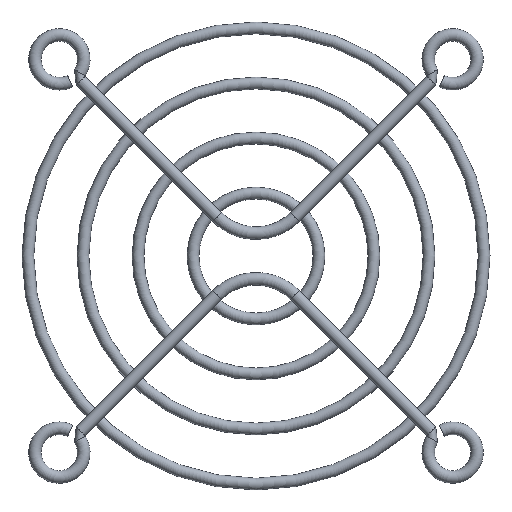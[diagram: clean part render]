
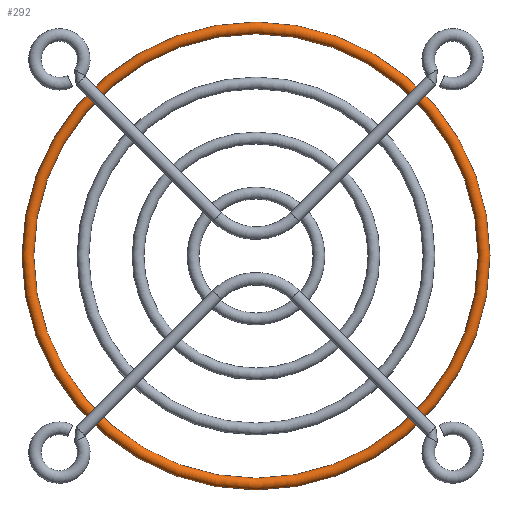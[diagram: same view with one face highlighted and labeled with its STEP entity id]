
A CAD part, top view. The second image highlights one B-rep face of the part: STEP entity #292.
In plain terms, the highlighted toroidal (fillet/blend) face has major radius 29 mm and minor radius 0.75 mm.
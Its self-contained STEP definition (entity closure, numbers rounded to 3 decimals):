
#292=ADVANCED_FACE('',(),#462,.T.);
#462=TOROIDAL_SURFACE('',#463,29.,0.75);
#463=AXIS2_PLACEMENT_3D('',#464,#465,#466);
#464=CARTESIAN_POINT('',(0.,0.,0.));
#465=DIRECTION('',(-0.,-0.,-1.));
#466=DIRECTION('',(0.,-1.,0.));
